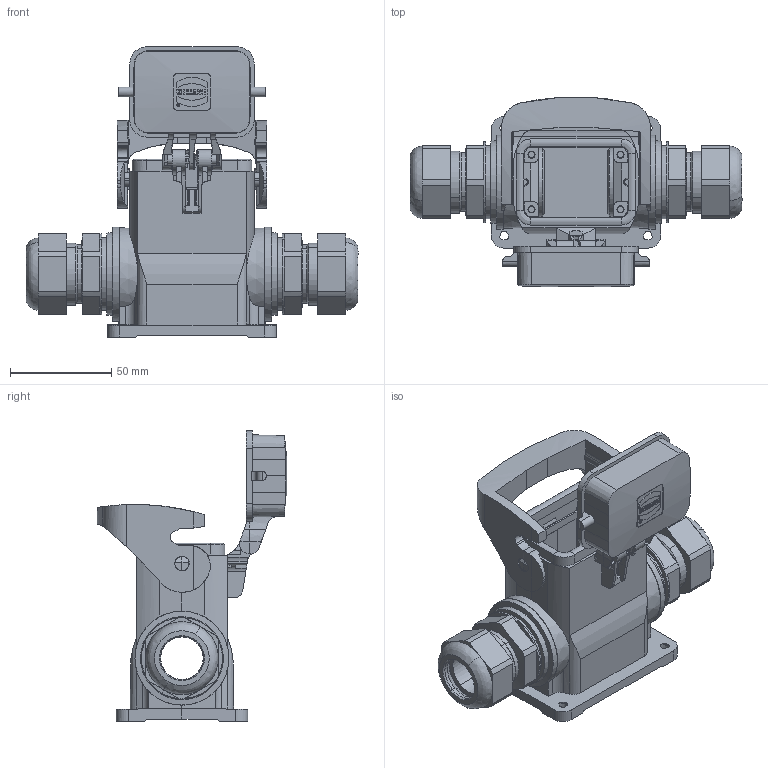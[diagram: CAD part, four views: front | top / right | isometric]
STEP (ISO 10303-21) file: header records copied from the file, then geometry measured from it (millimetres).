
FILE_DESCRIPTION(/* description */ (''),/* implementation_level */ '2;1');
FILE_NAME(/* name */ '100763655ugm000_d.stp',/* time_stamp */ '2022-07-06T14:00:27+02:00',/* author */ (''),/* organization */ (''),/* preprocessor_version */ 'ST-DEVELOPER v16.7',/* originating_system */ 'SIEMENS PLM Software NX 1911',/* authorisation */ '');
FILE_SCHEMA (('AUTOMOTIVE_DESIGN { 1 0 10303 214 3 1 1 1 }'));
Length unit declared in the file: millimetre
Products named in the file (1): 100763655ugm000_d
Bounding box: 164.1 x 93.9 x 143.5 mm (x, y, z)
Volume: 36056.6 mm3; surface area: 94465.8 mm2
Topology: 2 solids, 622 shells, 960 faces, 4268 edges, 3913 vertices
Faces by surface type: plane 590, cylinder 221, cone 88, bspline 30, revolution 20, extrusion 7, torus 4
Full cylindrical faces by diameter (mm): 1.006 x1, 1.477 x1, 3 x4, 3.5 x4, 4.8 x2, 7.2 x2, 30 x2, 32 x2, 36 x2, 46.4 x2
Entity records: 53457 total; most frequent: CARTESIAN_POINT 13404, DIRECTION 6930, ORIENTED_EDGE 5150, EDGE_CURVE 4213, VERTEX_POINT 3893, VECTOR 2636, LINE 2629, AXIS2_PLACEMENT_3D 2137
